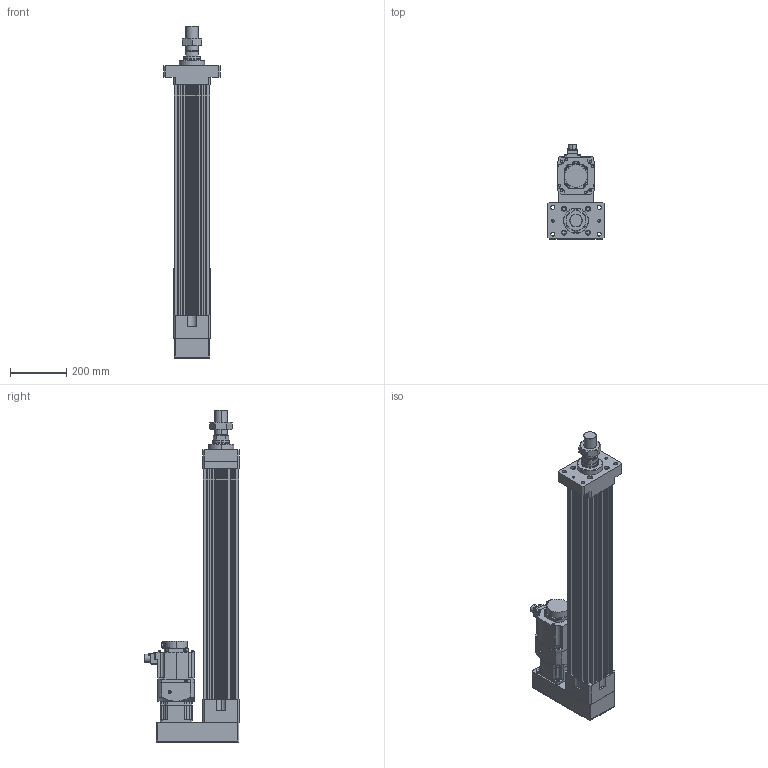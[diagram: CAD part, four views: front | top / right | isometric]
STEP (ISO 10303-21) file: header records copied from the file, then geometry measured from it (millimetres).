
FILE_DESCRIPTION (( 'STEP AP203' ), '1' );
FILE_NAME ('HES130NS(FS)(HS)-P600-W015G00-M-FMA.STEP', '2023-01-29T04:55:53', ( 'tms' ), ( '' ), 'SwSTEP 2.0', 'SolidWorks 2013', '' );
FILE_SCHEMA (( 'CONFIG_CONTROL_DESIGN' ));
Length unit declared in the file: millimetre
Products named in the file (8): HES130NS(FS)(HS)-P600-W015G00-M-FMA; HES130 ROD M ST600; AB115-003[HG-SR152]; HES130-P600-G120-FMA; P0401400706; M45X1.5P; AB1151; HG-SR152
Assembly tree (7 placements, depth 3):
  HES130NS(FS)(HS)-P600-W015G00-M-FMA
    HES130-P600-G120-FMA
    HES130 ROD M ST600
    M45X1.5P
    AB115-003[HG-SR152]
      AB1151
      P0401400706
    HG-SR152
Bounding box: 200 x 337.49 x 1182 mm (x, y, z)
Volume: 13248216.8 mm3; surface area: 1612454.3 mm2
Topology: 4 solids, 11 shells, 1082 faces, 2768 edges, 1799 vertices
Faces by surface type: cylinder 513, plane 489, cone 68, bspline 8, torus 4
Entity records: 34626 total; most frequent: CARTESIAN_POINT 6632, DIRECTION 5993, ORIENTED_EDGE 5484, EDGE_CURVE 2752, AXIS2_PLACEMENT_3D 2228, VERTEX_POINT 1799, LINE 1537, VECTOR 1537
